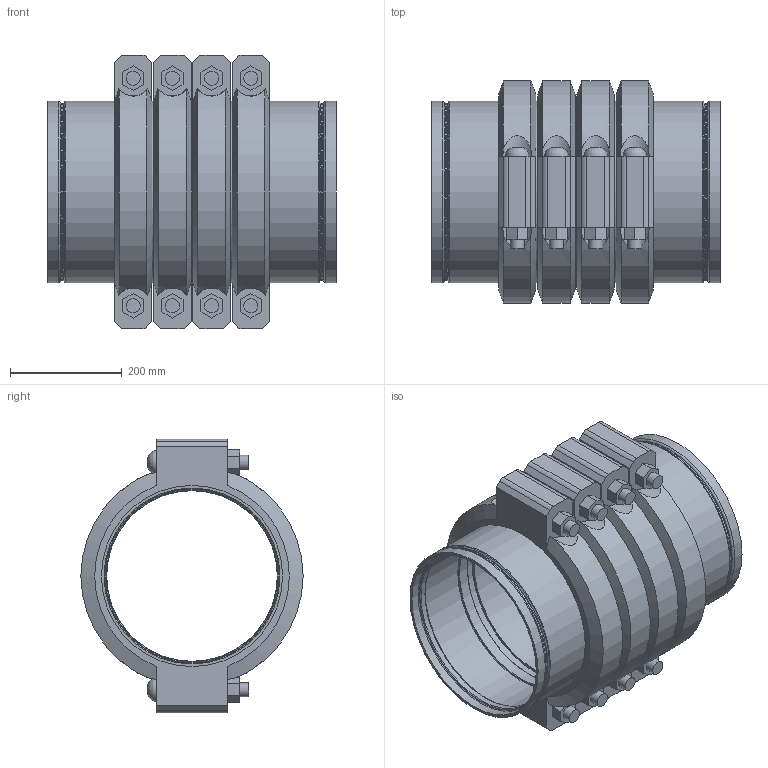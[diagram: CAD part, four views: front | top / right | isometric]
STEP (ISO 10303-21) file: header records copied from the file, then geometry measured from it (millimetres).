
FILE_DESCRIPTION(/* description */ ('VIC STRENGTHIN 100 EXPANSION JOINT 4 COUPLINGS COMPRESSED STYLE E155 (ST1)','CAx-IF Rec.Pracs.---Representation and Presentation of Product Manufacturing Information (PMI)---4.0---2014-10-13'),/* implementation_level */ '2;1');
FILE_NAME(/* name */ 'C:\Users\Vjadhav\AppData\Roaming\Autodesk\ApplicationPlugins\Victaulic.Temp\A975\Victaulic_SS-StrengThin 100_Expansion Joint_Compressed_4 Couplings_Style E155 (ST1)_12 (300).stp',/* time_stamp */ '2021-07-23T12:31:50+05:00',/* author */ ('kkamble'),/* organization */ ('Victaulic'),/* preprocessor_version */ 'ST-DEVELOPER v17.2',/* originating_system */ 'Autodesk Inventor 2019',/* authorisation */ '');
FILE_SCHEMA (('AP242_MANAGED_MODEL_BASED_3D_ENGINEERING_MIM_LF { 1 0 10303 442 1 1 4 }'));
Length unit declared in the file: inch
Products named in the file (4): E155-12.0; E494G-12.0; Nipple-12.0; 077-12.0
Assembly tree (9 placements, depth 2):
  E155-12.0
    E494G-12.0  x2
    Nipple-12.0  x3
    077-12.0  x4
Bounding box: 515.11 x 397 x 488.95 mm (x, y, z)
Volume: 16919224.2 mm3; surface area: 2408242.5 mm2
Topology: 9 solids, 17 shells, 334 faces, 876 edges, 622 vertices
Faces by surface type: plane 168, cylinder 106, torus 32, cone 20, bspline 8
Full cylindrical faces by diameter (mm): 25.4 x16, 27.432 x8, 304.8 x3, 306.426 x2, 308.737 x2, 314.3 x6, 315.976 x2, 318.287 x8, 323.85 x19
Entity records: 3938 total; most frequent: CARTESIAN_POINT 814, DIRECTION 665, ORIENTED_EDGE 568, AXIS2_PLACEMENT_3D 286, EDGE_CURVE 284, VERTEX_POINT 205, CIRCLE 171, EDGE_LOOP 129
